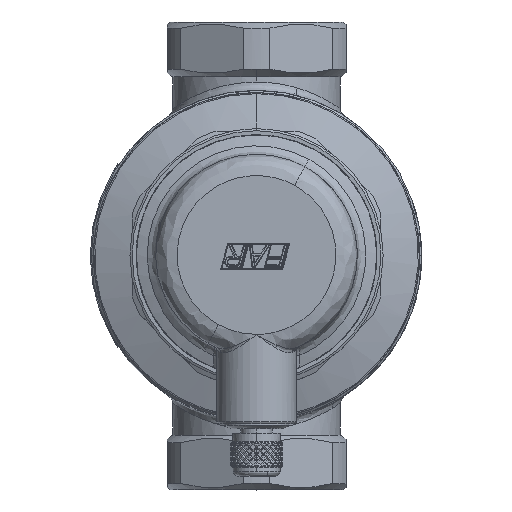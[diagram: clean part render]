
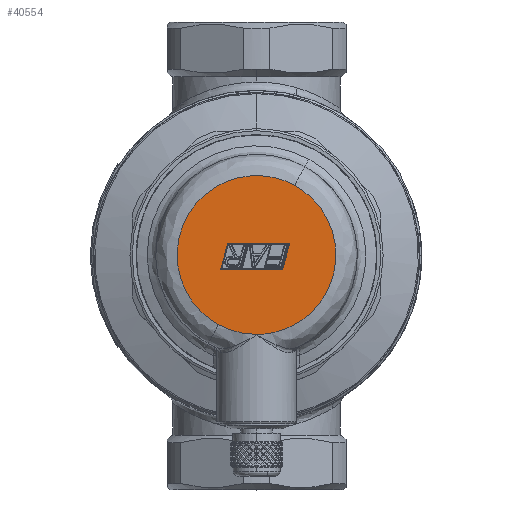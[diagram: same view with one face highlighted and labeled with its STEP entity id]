
A CAD part, top view. The second image highlights one B-rep face of the part: STEP entity #40554.
In plain terms, the highlighted planar face has unit normal (0, 0, 1) as drawn and (0, -1, 0) by its records, which use the part's own axes.
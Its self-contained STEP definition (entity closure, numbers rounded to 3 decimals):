
#1281 = CARTESIAN_POINT ( 'NONE',  ( 0., -20., -2.64 ) ) ;
#3019 = CARTESIAN_POINT ( 'NONE',  ( 8.869, -20., 16.235 ) ) ;
#6218 =( BOUNDED_CURVE ( )  B_SPLINE_CURVE ( 3, ( #9711, #44011, #42939, #76633 ),
 .UNSPECIFIED., .F., .T. ) 
 B_SPLINE_CURVE_WITH_KNOTS ( ( 4, 4 ),
 ( 0., 1. ),
 .UNSPECIFIED. ) 
 CURVE ( )  GEOMETRIC_REPRESENTATION_ITEM ( )  RATIONAL_B_SPLINE_CURVE ( ( 1., 0.333, 0.333, 1. ) ) 
 REPRESENTATION_ITEM ( '' )  );
#8265 = LINE ( 'NONE', #59723, #65792 ) ;
#8925 = CARTESIAN_POINT ( 'NONE',  ( 0., -20., 0. ) ) ;
#9711 = CARTESIAN_POINT ( 'NONE',  ( 8.869, -20., 16.235 ) ) ;
#9834 = AXIS2_PLACEMENT_3D ( 'NONE', #8925, #60383, #42682 ) ;
#11413 = CARTESIAN_POINT ( 'NONE',  ( -8.869, -20., -16.235 ) ) ;
#11990 = VERTEX_POINT ( 'NONE', #62437 ) ;
#13792 = CARTESIAN_POINT ( 'NONE',  ( 8.869, -20., 16.235 ) ) ;
#13807 = ORIENTED_EDGE ( 'NONE', *, *, #72886, .F. ) ;
#14820 = ORIENTED_EDGE ( 'NONE', *, *, #75438, .F. ) ;
#15354 = EDGE_CURVE ( 'NONE', #60177, #24976, #56100, .T. ) ;
#17092 = ORIENTED_EDGE ( 'NONE', *, *, #63814, .F. ) ;
#17358 = LINE ( 'NONE', #1281, #38761 ) ;
#18942 = VERTEX_POINT ( 'NONE', #44348 ) ;
#24561 = EDGE_LOOP ( 'NONE', ( #33278, #76645, #43347, #17092 ) ) ;
#24976 = VERTEX_POINT ( 'NONE', #79621 ) ;
#25258 = LINE ( 'NONE', #49622, #63640 ) ;
#27142 = FACE_BOUND ( 'NONE', #24561, .T. ) ;
#32963 = EDGE_CURVE ( 'NONE', #11990, #58987, #55373, .T. ) ;
#33278 = ORIENTED_EDGE ( 'NONE', *, *, #98371, .F. ) ;
#34674 = CARTESIAN_POINT ( 'NONE',  ( 0., -20., 18.5 ) ) ;
#35908 =( BOUNDED_CURVE ( )  B_SPLINE_CURVE ( 3, ( #85802, #43750, #46960, #13792 ),
 .UNSPECIFIED., .F., .T. ) 
 B_SPLINE_CURVE_WITH_KNOTS ( ( 4, 4 ),
 ( 0., 1. ),
 .UNSPECIFIED. ) 
 CURVE ( )  GEOMETRIC_REPRESENTATION_ITEM ( )  RATIONAL_B_SPLINE_CURVE ( ( 1., 0.979, 0.979, 1. ) ) 
 REPRESENTATION_ITEM ( '' )  );
#38761 = VECTOR ( 'NONE', #109208, 1000. ) ;
#39847 = DIRECTION ( 'NONE',  ( -1., 0., 0. ) ) ;
#40250 = ORIENTED_EDGE ( 'NONE', *, *, #15354, .F. ) ;
#40554 = ADVANCED_FACE ( 'NONE', ( #27142, #102426 ), #75287, .F. ) ;
#42682 = DIRECTION ( 'NONE',  ( 0., 0., 1. ) ) ;
#42939 = CARTESIAN_POINT ( 'NONE',  ( 23.601, -20., -33.974 ) ) ;
#43347 = ORIENTED_EDGE ( 'NONE', *, *, #94817, .F. ) ;
#43750 = CARTESIAN_POINT ( 'NONE',  ( 3.116, -20., 18.5 ) ) ;
#44011 = CARTESIAN_POINT ( 'NONE',  ( 41.34, -20., -1.503 ) ) ;
#44348 = CARTESIAN_POINT ( 'NONE',  ( -7.708, -20., -2.64 ) ) ;
#46960 = CARTESIAN_POINT ( 'NONE',  ( 6.135, -20., 17.729 ) ) ;
#49452 = CARTESIAN_POINT ( 'NONE',  ( -6.097, -20., 3.372 ) ) ;
#49622 = CARTESIAN_POINT ( 'NONE',  ( 6.741, -20., -2.64 ) ) ;
#53468 = CARTESIAN_POINT ( 'NONE',  ( -23.983, -20., 18.5 ) ) ;
#55373 = LINE ( 'NONE', #105709, #92641 ) ;
#56100 =( BOUNDED_CURVE ( )  B_SPLINE_CURVE ( 3, ( #11413, #94461, #53468, #34674 ),
 .UNSPECIFIED., .F., .T. ) 
 B_SPLINE_CURVE_WITH_KNOTS ( ( 4, 4 ),
 ( 0., 1. ),
 .UNSPECIFIED. ) 
 CURVE ( )  GEOMETRIC_REPRESENTATION_ITEM ( )  RATIONAL_B_SPLINE_CURVE ( ( 1., 0.498, 0.498, 1. ) ) 
 REPRESENTATION_ITEM ( '' )  );
#56149 = CARTESIAN_POINT ( 'NONE',  ( -8.869, -20., -16.235 ) ) ;
#56850 = DIRECTION ( 'NONE',  ( 0.259, 0., 0.966 ) ) ;
#58987 = VERTEX_POINT ( 'NONE', #49452 ) ;
#59723 = CARTESIAN_POINT ( 'NONE',  ( -6.097, -20., 3.372 ) ) ;
#60177 = VERTEX_POINT ( 'NONE', #56149 ) ;
#60383 = DIRECTION ( 'NONE',  ( 0., 1., 0. ) ) ;
#62437 = CARTESIAN_POINT ( 'NONE',  ( 8.353, -20., 3.378 ) ) ;
#63640 = VECTOR ( 'NONE', #56850, 1000. ) ;
#63814 = EDGE_CURVE ( 'NONE', #18942, #106946, #17358, .T. ) ;
#64732 = CARTESIAN_POINT ( 'NONE',  ( 6.741, -20., -2.64 ) ) ;
#65792 = VECTOR ( 'NONE', #75719, 1000. ) ;
#72886 = EDGE_CURVE ( 'NONE', #108724, #60177, #6218, .T. ) ;
#75287 = PLANE ( 'NONE',  #9834 ) ;
#75438 = EDGE_CURVE ( 'NONE', #24976, #108724, #35908, .T. ) ;
#75719 = DIRECTION ( 'NONE',  ( -0.259, 0., -0.966 ) ) ;
#76633 = CARTESIAN_POINT ( 'NONE',  ( -8.869, -20., -16.235 ) ) ;
#76645 = ORIENTED_EDGE ( 'NONE', *, *, #32963, .F. ) ;
#79621 = CARTESIAN_POINT ( 'NONE',  ( 0., -20., 18.5 ) ) ;
#85802 = CARTESIAN_POINT ( 'NONE',  ( 0., -20., 18.5 ) ) ;
#86631 = EDGE_LOOP ( 'NONE', ( #14820, #40250, #13807 ) ) ;
#92641 = VECTOR ( 'NONE', #39847, 1000. ) ;
#94461 = CARTESIAN_POINT ( 'NONE',  ( -29.916, -20., -4.737 ) ) ;
#94817 = EDGE_CURVE ( 'NONE', #106946, #11990, #25258, .T. ) ;
#98371 = EDGE_CURVE ( 'NONE', #58987, #18942, #8265, .T. ) ;
#102426 = FACE_OUTER_BOUND ( 'NONE', #86631, .T. ) ;
#105709 = CARTESIAN_POINT ( 'NONE',  ( 8.353, -20., 3.378 ) ) ;
#106946 = VERTEX_POINT ( 'NONE', #64732 ) ;
#108724 = VERTEX_POINT ( 'NONE', #3019 ) ;
#109208 = DIRECTION ( 'NONE',  ( 1., 0., 0. ) ) ;
